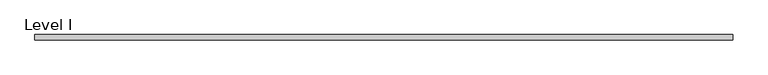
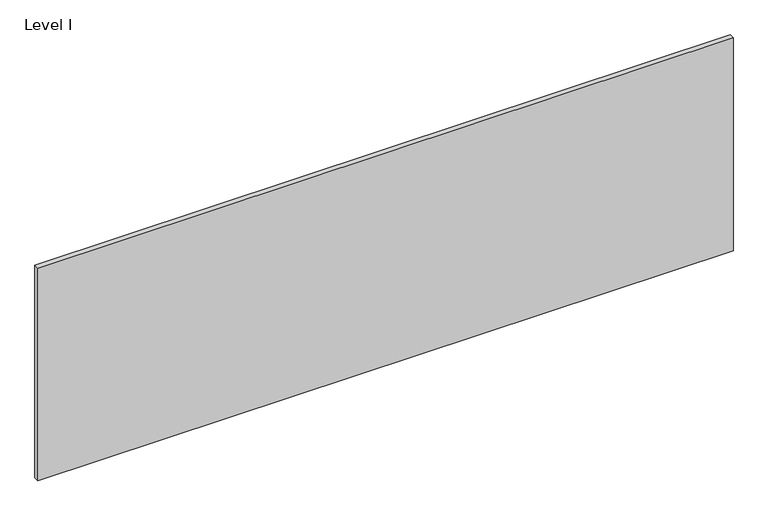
"""IFC4 building model written with IfcOpenShell, lengths in millimetres: proxy geometry, Panel-Fascia-Teknion-Altos-Landscape : Level I."""

from ifc_helpers import new_model, si_unit, frame, origin, place, context, project, spatial, polyline, outline, extrude, source, transform, mapped, element, save


def level_i_0fad34de(model_context):
    return source(origin(), model_context, "Body", "SweptSolid", [
        extrude(outline(polyline([(1252.8407125, -9.525), (-1252.8407125, -9.525), (-1252.8407125, 9.525), (1252.8407125, 9.525), (1252.8407125, -9.525)])), frame((0.0, 0.0, 3.175), z_axis=(0.0, 0.0, 1.0), x_axis=(1.0, 0.0, 0.0)), (0.0, 0.0, 1.0), 810.768),
    ])


if __name__ == "__main__":
    model = new_model("IFC4")
    model_context = context("Model", 3, world=origin())
    ifc_project = project(units=[si_unit("LENGTHUNIT", "METRE", prefix="MILLI")], contexts=[model_context])
    site = spatial("IfcSite", under=ifc_project)
    building = spatial("IfcBuilding", under=site)
    placement = place(None, origin())
    level_i_shape = level_i_0fad34de(model_context)
    element("IfcBuildingElementProxy", 1, Name="Panel-Fascia-Teknion-Altos-Landscape : Level I", ObjectType="Panel-Fascia-Teknion-Altos-Landscape : Level I", at=placement, inside=building, context=model_context, shape_type="MappedRepresentation", body=[
        mapped(level_i_shape, transform((0.0, 0.0, 0.0), x_axis=(1.0, 0.0, 0.0), y_axis=(0.0, 1.0, 0.0), z_axis=(0.0, 0.0, 1.0))),
    ])
    save(model, "model.ifc")
